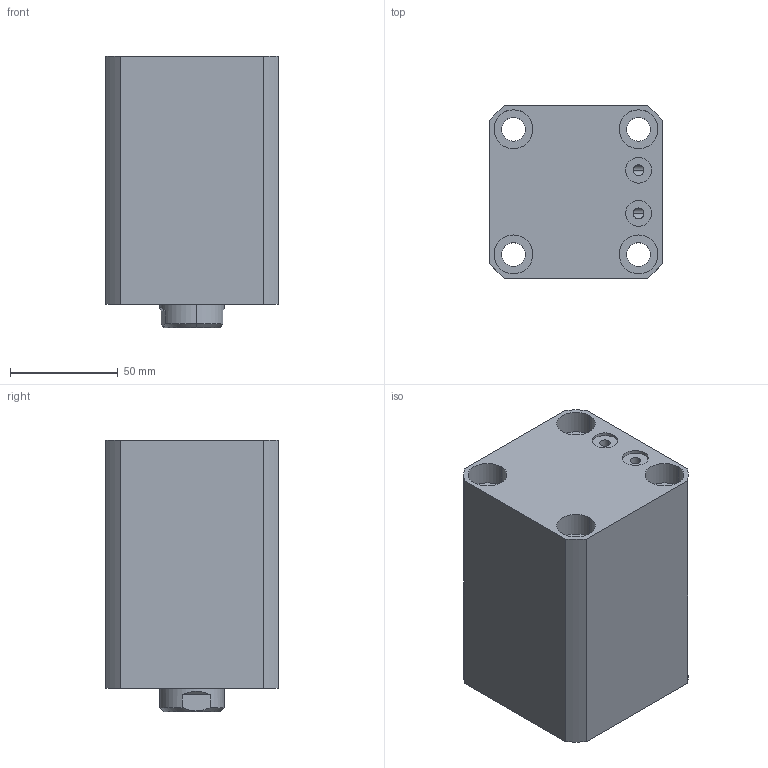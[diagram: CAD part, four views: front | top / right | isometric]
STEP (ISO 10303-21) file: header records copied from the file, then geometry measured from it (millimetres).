
FILE_DESCRIPTION (( 'STEP AP203' ), '1' );
FILE_NAME ('CHTB-SDMA50-55N.STEP', '2018-05-19T05:57:46', ( '' ), ( '' ), 'SwSTEP 2.0', 'SolidWorks 2015', '' );
FILE_SCHEMA (( 'CONFIG_CONTROL_DESIGN' ));
Length unit declared in the file: millimetre
Products named in the file (5): CHTM-SDMA50QG; CHTB-SDMA50-55N; M6; 掛极SDMB50-55N; 活塞杆SDMB50-55N
Assembly tree (5 placements, depth 2):
  CHTB-SDMA50-55N
    掛极SDMB50-55N
    活塞杆SDMB50-55N
    CHTM-SDMA50QG
    M6  x2
Bounding box: 80 x 80 x 126 mm (x, y, z)
Volume: 597341.2 mm3; surface area: 117167 mm2
Topology: 5 solids, 5 shells, 263 faces, 693 edges, 458 vertices
Faces by surface type: cylinder 135, plane 55, cone 31, bspline 26, torus 16
Entity records: 13963 total; most frequent: CARTESIAN_POINT 8102, ORIENTED_EDGE 1188, DIRECTION 1016, EDGE_CURVE 594, AXIS2_PLACEMENT_3D 416, VERTEX_POINT 397, EDGE_LOOP 269, FACE_OUTER_BOUND 228
